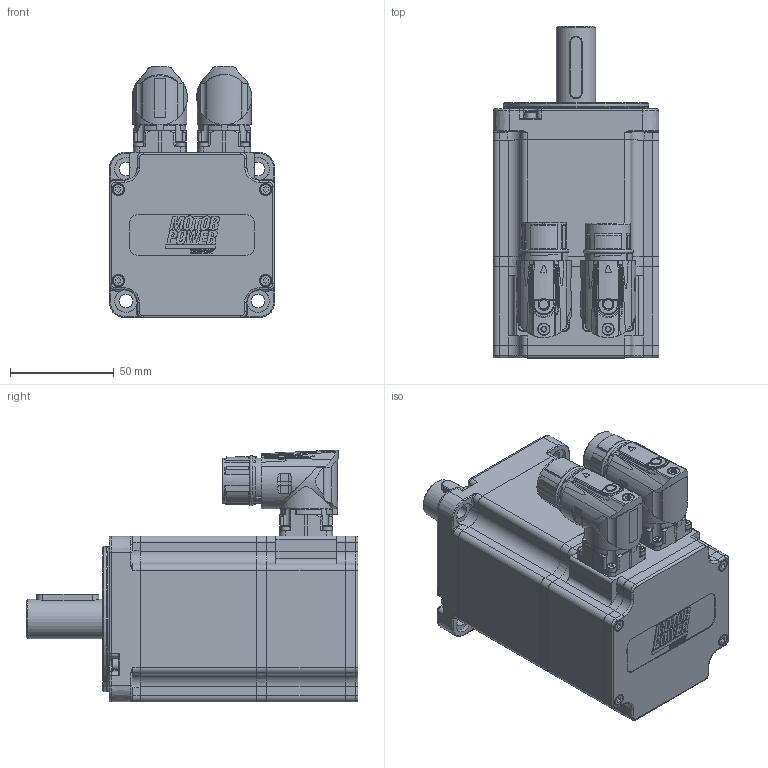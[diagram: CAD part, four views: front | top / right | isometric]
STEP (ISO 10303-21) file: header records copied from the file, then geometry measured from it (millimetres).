
FILE_DESCRIPTION(/* description */ ('Unknown'),/* implementation_level */ '2;1');
FILE_NAME(/* name */ 'TC4-80.3A.XX.X.3.M1.0.1.G2.33.80 Q0D209',/* time_stamp */ '2026-03-04T10:30:30+01:00',/* author */ ('Unknown'),/* organization */ ('Unknown'),/* preprocessor_version */ 'ST-DEVELOPER v19.4',/* originating_system */ 'Solid Edge',/* authorisation */ 'Unknown');
FILE_SCHEMA (('AUTOMOTIVE_DESIGN {1 0 10303 214 3 1 1}'));
Products named in the file (14): Q0D209 3A M1 VUOTO; 003107003286; 005911000192; 005113000500; 003155002234; 007117000454; 003151003165; 003103040148; 005911000185; 005119001500; 007117000456; 003003200453; 005911000202; 003251040719
Assembly tree (26 placements, depth 2):
  Q0D209 3A M1 VUOTO
    003107003286
    005911000192  x4
    005113000500
    003155002234
    007117000454
    003151003165
    003103040148
    005911000185  x8
    005119001500
    007117000456
    003003200453
    005911000202  x4
    003251040719
Bounding box: 80 x 160 x 121.5 mm (x, y, z)
Volume: 344604 mm3; surface area: 163413.6 mm2
Topology: 28 solids, 28 shells, 2328 faces, 5810 edges, 3734 vertices
Faces by surface type: plane 1037, cylinder 547, bspline 338, cone 258, torus 119, sphere 29
Full cylindrical faces by diameter (mm): 0.5 x1, 1 x21, 1.2 x17, 1.4 x4, 2 x4, 2.013 x12, 2.459 x16, 2.5 x9, 2.8 x4, 3 x20, 3.2 x1, 3.5 x18, 4.5 x2, 4.7 x8, 4.917 x1, 5.5 x10, 5.8 x1, 5.9 x2, 6 x9, 6.4 x1, 6.6 x4, 6.8 x1, 7 x4, 10 x1, 11 x4, 15 x1, 15.2 x1, 17.4 x3, 18 x1, 19 x3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
Entity records: 85212 total; most frequent: CARTESIAN_POINT 24172, ORIENTED_EDGE 9762, DIRECTION 8858, EDGE_CURVE 4881, AXIS2_PLACEMENT_3D 3363, VERTEX_POINT 3362, FACE_BOUND 2813, EDGE_LOOP 2791
